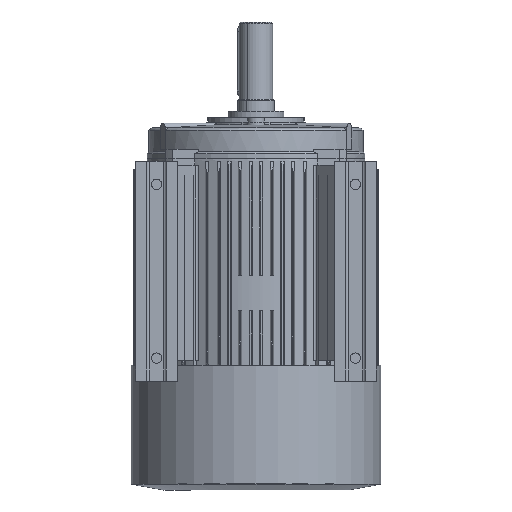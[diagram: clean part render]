
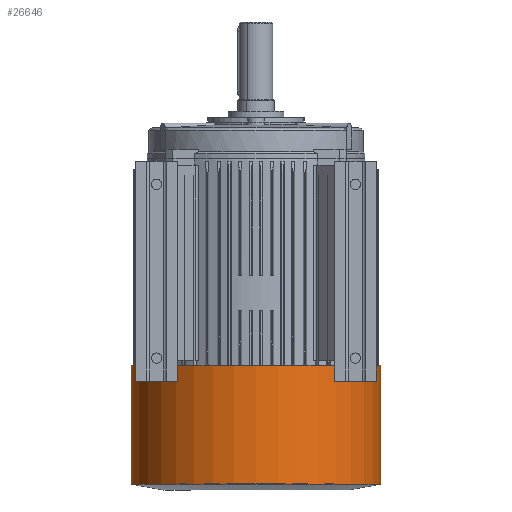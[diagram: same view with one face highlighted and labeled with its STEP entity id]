
A CAD part, front view. The second image highlights one B-rep face of the part: STEP entity #26646.
In plain terms, the highlighted cylindrical face has radius 223 mm (diameter 446 mm), a partial arc.
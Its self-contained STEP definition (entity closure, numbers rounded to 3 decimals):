
#2588 = DIRECTION ( 'NONE',  ( -1., 0., 0. ) ) ;
#2593 = DIRECTION ( 'NONE',  ( 0., 0., 1. ) ) ;
#2619 = CARTESIAN_POINT ( 'NONE',  ( 212.773, 0., 0. ) ) ;
#3111 = CARTESIAN_POINT ( 'NONE',  ( 0., 0., 0. ) ) ;
#3116 = DIRECTION ( 'NONE',  ( 1., 0., 0. ) ) ;
#3118 = DIRECTION ( 'NONE',  ( 0., 0., 1. ) ) ;
#6122 = ORIENTED_EDGE ( 'NONE', *, *, #16729, .T. ) ;
#6123 = ORIENTED_EDGE ( 'NONE', *, *, #16770, .T. ) ;
#6124 = ORIENTED_EDGE ( 'NONE', *, *, #16656, .T. ) ;
#6162 = ORIENTED_EDGE ( 'NONE', *, *, #16650, .F. ) ;
#8664 = EDGE_LOOP ( 'NONE', ( #6162, #6122, #6124, #6123 ) ) ;
#10323 = VERTEX_POINT ( 'NONE', #21139 ) ;
#10340 = VERTEX_POINT ( 'NONE', #21210 ) ;
#10350 = VERTEX_POINT ( 'NONE', #15207 ) ;
#10383 = VERTEX_POINT ( 'NONE', #14285 ) ;
#13475 = CIRCLE ( 'NONE', #17866, 223. ) ;
#13484 = CIRCLE ( 'NONE', #17877, 223. ) ;
#14146 = VECTOR ( 'NONE', #21334, 1000. ) ;
#14175 = LINE ( 'NONE', #21318, #14146 ) ;
#14203 = LINE ( 'NONE', #21330, #14208 ) ;
#14208 = VECTOR ( 'NONE', #21336, 1000. ) ;
#14285 = CARTESIAN_POINT ( 'NONE',  ( 212.773, 0., -223. ) ) ;
#15207 = CARTESIAN_POINT ( 'NONE',  ( 0., 0., 223. ) ) ;
#15219 = DIRECTION ( 'NONE',  ( 0., 0., 1. ) ) ;
#15232 = CARTESIAN_POINT ( 'NONE',  ( -25.6, 0., 0. ) ) ;
#15252 = DIRECTION ( 'NONE',  ( -1., 0., 0. ) ) ;
#16650 = EDGE_CURVE ( 'NONE', #10383, #10323, #14175, .T. ) ;
#16656 = EDGE_CURVE ( 'NONE', #10340, #10350, #14203, .T. ) ;
#16729 = EDGE_CURVE ( 'NONE', #10383, #10340, #13475, .T. ) ;
#16770 = EDGE_CURVE ( 'NONE', #10350, #10323, #13484, .T. ) ;
#17866 = AXIS2_PLACEMENT_3D ( 'NONE', #2619, #2588, #2593 ) ;
#17877 = AXIS2_PLACEMENT_3D ( 'NONE', #3111, #3116, #3118 ) ;
#21139 = CARTESIAN_POINT ( 'NONE',  ( 0., 0., -223. ) ) ;
#21210 = CARTESIAN_POINT ( 'NONE',  ( 212.773, 0., 223. ) ) ;
#21318 = CARTESIAN_POINT ( 'NONE',  ( -25.6, 0., -223. ) ) ;
#21330 = CARTESIAN_POINT ( 'NONE',  ( -25.6, 0., 223. ) ) ;
#21334 = DIRECTION ( 'NONE',  ( -1., 0., 0. ) ) ;
#21336 = DIRECTION ( 'NONE',  ( -1., 0., 0. ) ) ;
#21914 = CYLINDRICAL_SURFACE ( 'NONE', #28976, 223. ) ;
#21932 = FACE_OUTER_BOUND ( 'NONE', #8664, .T. ) ;
#26646 = ADVANCED_FACE ( 'NONE', ( #21932 ), #21914, .T. ) ;
#28976 = AXIS2_PLACEMENT_3D ( 'NONE', #15232, #15252, #15219 ) ;
